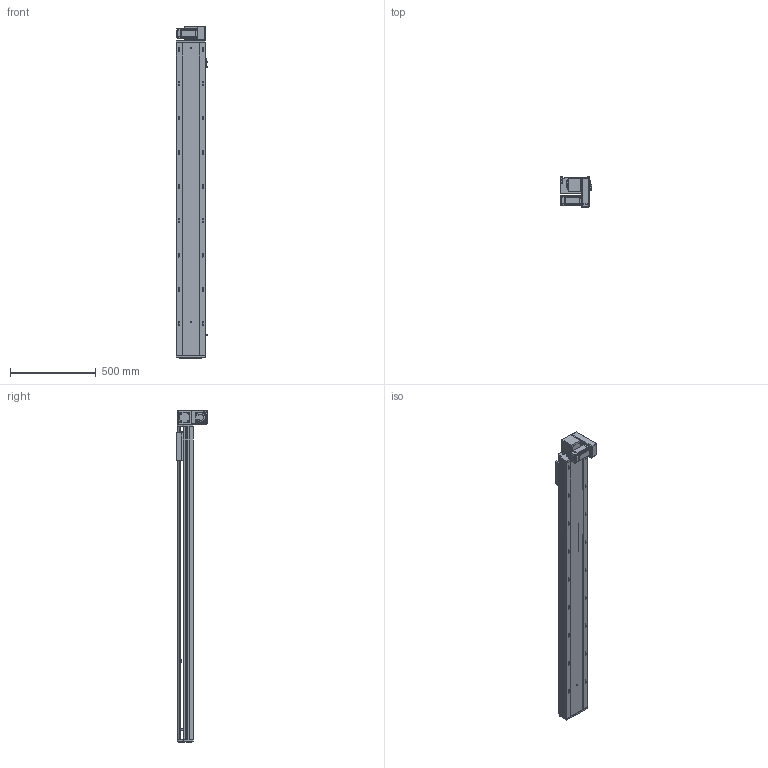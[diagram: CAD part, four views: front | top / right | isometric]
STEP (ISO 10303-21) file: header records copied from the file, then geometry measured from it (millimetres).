
FILE_DESCRIPTION (( 'STEP AP203' ), '1' );
FILE_NAME ('RY170-T-300-DR-P400W.SLDASM_1550.step', '2021-03-01T08:24:13', ( '盈信电脑' ), ( '东莞市道滘镇水果街19号' ), 'SwSTEP 2.0', 'SolidWorks 2012', '' );
FILE_SCHEMA (( 'CONFIG_CONTROL_DESIGN' ));
Length unit declared in the file: millimetre
Products named in the file (19): RY170綴裔啣; 覜茼ん672; RY170-T-300肮祭謫倰第裔啣-DR_1550; RY170-T-300肮祭謫倰第菁釱-DR_1550; RY170肮祭湍臏賑輸; 15; RY170-T-300-DR-P400W.SLDASM_1550; RY170-T-呴雄粣揤踡啣; 滅袉蝶18-10; RY120-T主同步轮轴承压盖; RY170-T蹟翐M4; RY170-T肮祭謫裔啣; RY170-T肮祭湍揤踡輸2; RY170-T肮祭湍揤踡輸1; RY170肮祭謫萇儂欶; RY170同步轮电机安装板(400W); RY170翋肮祭謫釱; RY170外置感应片(200共用）; RY170肮祭謫ヶ裔啣
Assembly tree (23 placements, depth 2):
  RY170-T-300-DR-P400W.SLDASM_1550
    RY170-T-300肮祭謫倰第菁釱-DR_1550
    RY170肮祭湍臏賑輸
    RY170-T-300肮祭謫倰第裔啣-DR_1550
    RY170綴裔啣
    覜茼ん672  x3
    RY170外置感应片(200共用）
    RY170肮祭謫ヶ裔啣
    RY170翋肮祭謫釱
    RY170同步轮电机安装板(400W)
    RY170肮祭謫萇儂欶
    RY170-T肮祭湍揤踡輸1  x2
    RY170-T肮祭湍揤踡輸2  x2
    RY120-T主同步轮轴承压盖
    RY170-T肮祭謫裔啣
    RY170-T蹟翐M4
    滅袉蝶18-10  x2
    RY170-T-呴雄粣揤踡啣
    15
Bounding box: 183.7 x 178 x 1938 mm (x, y, z)
Volume: 9215076.5 mm3; surface area: 3155830.2 mm2
Topology: 23 solids, 23 shells, 2882 faces, 8014 edges, 5121 vertices
Faces by surface type: cylinder 1308, plane 1268, cone 276, bspline 30
Entity records: 86461 total; most frequent: CARTESIAN_POINT 19421, ORIENTED_EDGE 13656, DIRECTION 13440, EDGE_CURVE 6828, AXIS2_PLACEMENT_3D 4750, VERTEX_POINT 4477, LINE 3940, VECTOR 3940
